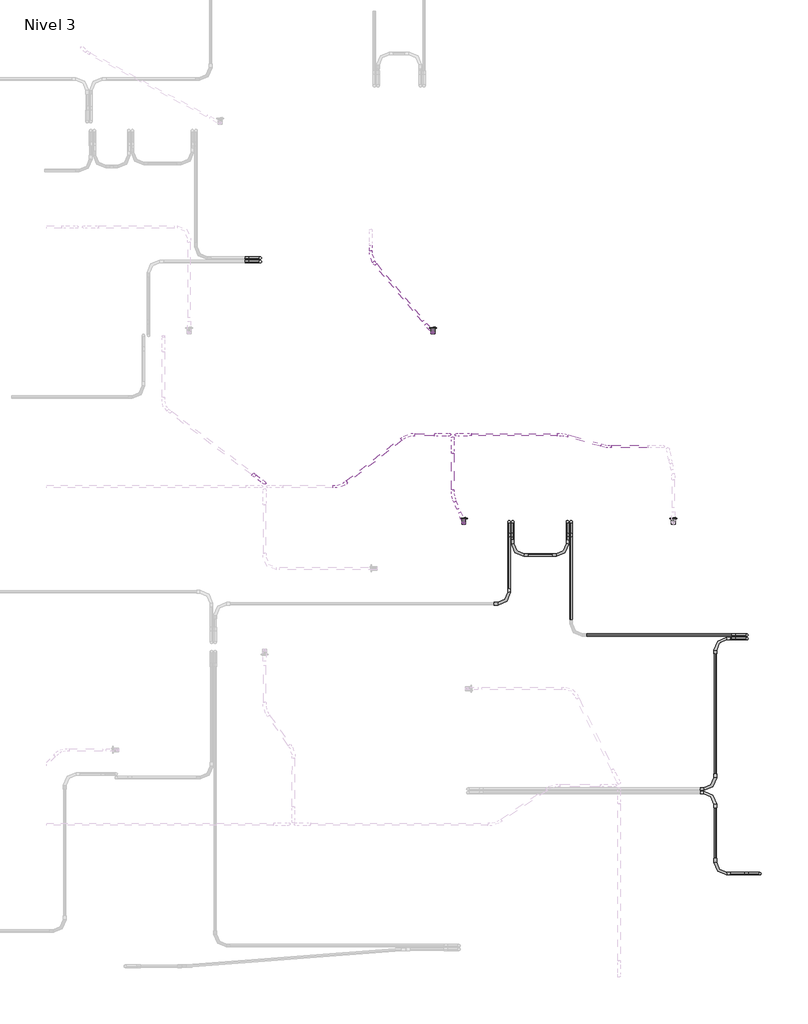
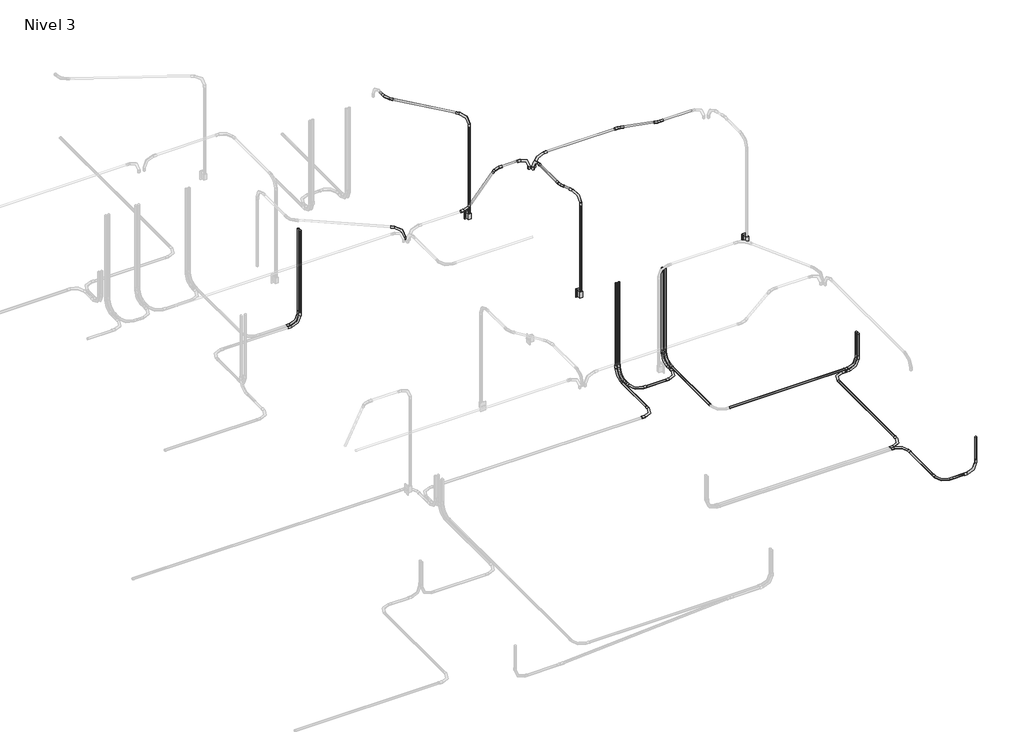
# One storey, part 4 of 9: 30 cable carrier segments, 28 cable carrier fittings, 3 switching devices.
"""IFC4 building model written with IfcOpenShell, lengths in millimetres."""

from ifc_helpers import new_model, si_unit, point, frame, frame_2d, origin, place, context, project, spatial, circle_curve, trimmed, segment, composite_curve, outline, extrude, transform, mapped, element, save
from components import m_codo_de_tubo_extremo_liso_pvc_9da73e12, m_codo_de_tubo_extremo_liso_pvc_102f0f41, m_codo_de_tubo_extremo_liso_pvc_ceb821ea, m_codo_de_tubo_extremo_liso_pvc_a7355fb1, m_codo_de_tubo_extremo_liso_pvc_d450ba0d, m_codo_de_tubo_extremo_liso_pvc_b46efc4b, switching_device_22fed34b

model = new_model("IFC4")

# Units and contexts
model_context = context("Model", 3, world=origin())
ifc_project = project(units=[si_unit("LENGTHUNIT", "METRE", prefix="MILLI")], contexts=[model_context])

# Site, building, storey
site = spatial("IfcSite", under=ifc_project)
building = spatial("IfcBuilding", under=site)
storey = spatial("IfcBuildingStorey", under=building, Name="Nivel 3", Elevation=5450.0)

# Cable carrier fittings
placement = place(None, origin())
m_codo_de_tubo_extremo_liso_pvc_shape = m_codo_de_tubo_extremo_liso_pvc_9da73e12(model_context)
element("IfcCableCarrierFitting", 1, ObjectType="M_Codo de tubo - Extremo liso - PVC : CODO POTENCIA", at=placement, inside=storey, context=model_context, shape_type="MappedRepresentation", body=[
    mapped(m_codo_de_tubo_extremo_liso_pvc_shape, transform((4214.6371118, 7687.1296392, 5380.0), x_axis=(0.0, 0.0, -1.0), y_axis=(-1.0, 0.0, 0.0), z_axis=(0.0, 1.0, 0.0))),
])
element("IfcCableCarrierFitting", 2, ObjectType="M_Codo de tubo - Extremo liso - PVC : CODO POTENCIA", at=placement, inside=storey, context=model_context, shape_type="MappedRepresentation", body=[
    mapped(m_codo_de_tubo_extremo_liso_pvc_shape, transform((4214.6371118, 7723.1932788, 5380.0), x_axis=(0.0, 0.0, -1.0), y_axis=(-1.0, 0.0, 0.0), z_axis=(0.0, 1.0, 0.0))),
])
element("IfcCableCarrierFitting", 3, ObjectType="M_Codo de tubo - Extremo liso - PVC : CODO POTENCIA", at=placement, inside=storey, context=model_context, shape_type="MappedRepresentation", body=[
    mapped(m_codo_de_tubo_extremo_liso_pvc_shape, transform((9244.6371118, 1529.9675815, 5380.0), x_axis=(0.0, 0.0, -1.0), y_axis=(-1.0, 0.0, 0.0), z_axis=(0.0, 1.0, 0.0))),
])
element("IfcCableCarrierFitting", 4, ObjectType="M_Codo de tubo - Extremo liso - PVC : CODO POTENCIA", at=placement, inside=storey, context=model_context, shape_type="MappedRepresentation", body=[
    mapped(m_codo_de_tubo_extremo_liso_pvc_shape, transform((9114.6371118, 3893.7800226, 5380.0), x_axis=(0.0, 0.0, -1.0), y_axis=(-1.0, 0.0, 0.0), z_axis=(0.0, 1.0, 0.0))),
])
element("IfcCableCarrierFitting", 5, ObjectType="M_Codo de tubo - Extremo liso - PVC : CODO POTENCIA", at=placement, inside=storey, context=model_context, shape_type="MappedRepresentation", body=[
    mapped(m_codo_de_tubo_extremo_liso_pvc_shape, transform((8794.6371118, 2344.5282763, 5380.0), x_axis=(0.0, 1.0, 0.0), y_axis=(-1.0, 0.0, 0.0), z_axis=(0.0, 0.0, 1.0))),
])
element("IfcCableCarrierFitting", 6, ObjectType="M_Codo de tubo - Extremo liso - PVC : CODO POTENCIA", at=placement, inside=storey, context=model_context, shape_type="MappedRepresentation", body=[
    mapped(m_codo_de_tubo_extremo_liso_pvc_shape, transform((8794.6371118, 1529.9675815, 5380.0), x_axis=(0.0, -1.0, 0.0), y_axis=(1.0, 0.0, 0.0), z_axis=(0.0, 0.0, 1.0))),
])
element("IfcCableCarrierFitting", 7, ObjectType="M_Codo de tubo - Extremo liso - PVC : CODO POTENCIA", at=placement, inside=storey, context=model_context, shape_type="MappedRepresentation", body=[
    mapped(m_codo_de_tubo_extremo_liso_pvc_shape, transform((8794.6371118, 3893.7800226, 5380.0), x_axis=(-1.0, 0.0, 0.0), y_axis=(0.0, -1.0, 0.0), z_axis=(0.0, 0.0, 1.0))),
])
element("IfcCableCarrierFitting", 8, ObjectType="M_Codo de tubo - Extremo liso - PVC : CODO POTENCIA", at=placement, inside=storey, context=model_context, shape_type="MappedRepresentation", body=[
    mapped(m_codo_de_tubo_extremo_liso_pvc_shape, transform((8794.6371118, 2380.5919159, 5380.0), x_axis=(1.0, 0.0, 0.0), y_axis=(0.0, 1.0, 0.0), z_axis=(0.0, 0.0, 1.0))),
])
element("IfcCableCarrierFitting", 9, ObjectType="M_Codo de tubo - Extremo liso - PVC : CODO POTENCIA", at=placement, inside=storey, context=model_context, shape_type="MappedRepresentation", body=[
    mapped(m_codo_de_tubo_extremo_liso_pvc_shape, transform((7343.1290455, 5070.3628882, 5380.0), x_axis=(0.0, 0.0, -1.0), y_axis=(0.0, -1.0, 0.0), z_axis=(-1.0, 0.0, 0.0))),
])
element("IfcCableCarrierFitting", 10, ObjectType="M_Codo de tubo - Extremo liso - PVC : CODO POTENCIA", at=placement, inside=storey, context=model_context, shape_type="MappedRepresentation", body=[
    mapped(m_codo_de_tubo_extremo_liso_pvc_shape, transform((7307.0654059, 5070.3628882, 5380.0), x_axis=(0.0, 0.0, -1.0), y_axis=(0.0, -1.0, 0.0), z_axis=(-1.0, 0.0, 0.0))),
])
element("IfcCableCarrierFitting", 11, ObjectType="M_Codo de tubo - Extremo liso - PVC : CODO POTENCIA", at=placement, inside=storey, context=model_context, shape_type="MappedRepresentation", body=[
    mapped(m_codo_de_tubo_extremo_liso_pvc_shape, transform((6755.4901534, 5070.3628882, 5380.0), x_axis=(0.0, 0.0, -1.0), y_axis=(0.0, -1.0, 0.0), z_axis=(-1.0, 0.0, 0.0))),
])
element("IfcCableCarrierFitting", 12, ObjectType="M_Codo de tubo - Extremo liso - PVC : CODO POTENCIA", at=placement, inside=storey, context=model_context, shape_type="MappedRepresentation", body=[
    mapped(m_codo_de_tubo_extremo_liso_pvc_shape, transform((6719.4265137, 5070.3628882, 5380.0), x_axis=(0.0, 0.0, -1.0), y_axis=(0.0, -1.0, 0.0), z_axis=(-1.0, 0.0, 0.0))),
])
element("IfcCableCarrierFitting", 13, ObjectType="M_Codo de tubo - Extremo liso - PVC : CODO POTENCIA", at=placement, inside=storey, context=model_context, shape_type="MappedRepresentation", body=[
    mapped(m_codo_de_tubo_extremo_liso_pvc_shape, transform((7307.0654059, 4735.4544528, 5380.0), x_axis=(1.0, 0.0, 0.0), y_axis=(0.0, 1.0, 0.0), z_axis=(0.0, 0.0, 1.0))),
])
element("IfcCableCarrierFitting", 14, ObjectType="M_Codo de tubo - Extremo liso - PVC : CODO POTENCIA", at=placement, inside=storey, context=model_context, shape_type="MappedRepresentation", body=[
    mapped(m_codo_de_tubo_extremo_liso_pvc_shape, transform((6755.4901534, 4735.4544528, 5380.0), x_axis=(0.0, -1.0, 0.0), y_axis=(1.0, 0.0, 0.0), z_axis=(0.0, 0.0, 1.0))),
])
element("IfcCableCarrierFitting", 15, ObjectType="M_Codo de tubo - Extremo liso - PVC : CODO POTENCIA", at=placement, inside=storey, context=model_context, shape_type="MappedRepresentation", body=[
    mapped(m_codo_de_tubo_extremo_liso_pvc_shape, transform((9114.6371118, 3929.8436623, 5380.0), x_axis=(0.0, 0.0, -1.0), y_axis=(-1.0, 0.0, 0.0), z_axis=(0.0, 1.0, 0.0))),
])
element("IfcCableCarrierFitting", 16, ObjectType="M_Codo de tubo - Extremo liso - PVC : CODO POTENCIA", at=placement, inside=storey, context=model_context, shape_type="MappedRepresentation", body=[
    mapped(m_codo_de_tubo_extremo_liso_pvc_shape, transform((6719.4265137, 4245.3628882, 5380.0), x_axis=(1.0, 0.0, 0.0), y_axis=(0.0, 1.0, 0.0), z_axis=(0.0, 0.0, 1.0))),
])
element("IfcCableCarrierFitting", 17, ObjectType="M_Codo de tubo - Extremo liso - PVC : CODO ILUMINACION", at=placement, inside=storey, context=model_context, shape_type="MappedRepresentation", body=[
    mapped(m_codo_de_tubo_extremo_liso_pvc_shape, transform((6187.5450067, 5945.2494875, 8000.0), x_axis=(-1.0, 0.0, 0.0), y_axis=(0.0, 0.0, -1.0), z_axis=(0.0, -1.0, 0.0))),
])
element("IfcCableCarrierFitting", 18, ObjectType="M_Codo de tubo - Extremo liso - PVC : CODO ILUMINACION", at=placement, inside=storey, context=model_context, shape_type="MappedRepresentation", body=[
    mapped(m_codo_de_tubo_extremo_liso_pvc_shape, transform((6151.3238073, 5913.4404259, 8000.0), x_axis=(0.0, 1.0, 0.0), y_axis=(0.0, 0.0, -1.0), z_axis=(-1.0, 0.0, 0.0))),
])
element("IfcCableCarrierFitting", 19, ObjectType="M_Codo de tubo - Extremo liso - PVC : CODO ILUMINACION", at=placement, inside=storey, context=model_context, shape_type="MappedRepresentation", body=[
    mapped(m_codo_de_tubo_extremo_liso_pvc_shape, transform((6262.8378124, 5056.8611243, 8000.0), x_axis=(0.0, 0.0, 1.0), y_axis=(-0.3790250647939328, 0.9253864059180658, 0.0), z_axis=(-0.9253864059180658, -0.3790250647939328, 0.0))),
])
element("IfcCableCarrierFitting", 20, ObjectType="M_Codo de tubo - Extremo liso - PVC : CODO ILUMINACION", at=placement, inside=storey, context=model_context, shape_type="MappedRepresentation", body=[
    mapped(m_codo_de_tubo_extremo_liso_pvc_shape, transform((5952.4011855, 6971.8611243, 8000.0), x_axis=(0.0, 0.0, 1.0), y_axis=(-0.6427876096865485, 0.7660444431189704, 0.0), z_axis=(-0.7660444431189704, -0.6427876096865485, 0.0))),
])
m_codo_de_tubo_extremo_liso_pvc_2_shape = m_codo_de_tubo_extremo_liso_pvc_102f0f41(model_context)
element("IfcCableCarrierFitting", 21, ObjectType="M_Codo de tubo - Extremo liso - PVC : CODO ILUMINACION", at=placement, inside=storey, context=model_context, shape_type="MappedRepresentation", body=[
    mapped(m_codo_de_tubo_extremo_liso_pvc_2_shape, transform((6119.5147457, 5945.2494875, 8000.0), x_axis=(1.0, 0.0, 0.0), y_axis=(0.0, 0.0, 1.0), z_axis=(0.0, -1.0, 0.0))),
])
element("IfcCableCarrierFitting", 22, ObjectType="M_Codo de tubo - Extremo liso - PVC : CODO ILUMINACION", at=placement, inside=storey, context=model_context, shape_type="MappedRepresentation", body=[
    mapped(m_codo_de_tubo_extremo_liso_pvc_2_shape, transform((4258.2410998, 5458.3054211, 8000.0), x_axis=(0.798635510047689, -0.6018150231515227, 0.0), y_axis=(0.0, 0.0, 1.0), z_axis=(-0.6018150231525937, -0.7986355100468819, 0.0))),
])
m_codo_de_tubo_extremo_liso_pvc_3_shape = m_codo_de_tubo_extremo_liso_pvc_ceb821ea(model_context)
element("IfcCableCarrierFitting", 23, ObjectType="M_Codo de tubo - Extremo liso - PVC : CODO ILUMINACION", at=placement, inside=storey, context=model_context, shape_type="MappedRepresentation", body=[
    mapped(m_codo_de_tubo_extremo_liso_pvc_3_shape, transform((7259.9450067, 5945.2494875, 8000.0), x_axis=(-0.9646302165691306, 0.2636068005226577, 0.0), y_axis=(-0.2636068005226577, -0.9646302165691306, 0.0), z_axis=(0.0, 0.0, 1.0))),
])
element("IfcCableCarrierFitting", 24, ObjectType="M_Codo de tubo - Extremo liso - PVC : CODO ILUMINACION", at=placement, inside=storey, context=model_context, shape_type="MappedRepresentation", body=[
    mapped(m_codo_de_tubo_extremo_liso_pvc_3_shape, transform((7696.9235905, 5825.8353075, 8000.0), x_axis=(0.9646302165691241, -0.2636068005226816, 0.0), y_axis=(0.2636068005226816, 0.9646302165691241, 0.0), z_axis=(0.0, 0.0, 1.0))),
])
m_codo_de_tubo_extremo_liso_pvc_4_shape = m_codo_de_tubo_extremo_liso_pvc_a7355fb1(model_context)
element("IfcCableCarrierFitting", 25, ObjectType="M_Codo de tubo - Extremo liso - PVC : CODO ILUMINACION", at=placement, inside=storey, context=model_context, shape_type="MappedRepresentation", body=[
    mapped(m_codo_de_tubo_extremo_liso_pvc_4_shape, transform((5693.9543175, 5945.2494875, 8000.0), x_axis=(-1.0, 0.0, 0.0), y_axis=(0.0, -1.0, 0.0), z_axis=(0.0, 0.0, 1.0))),
])
element("IfcCableCarrierFitting", 26, ObjectType="M_Codo de tubo - Extremo liso - PVC : CODO ILUMINACION", at=placement, inside=storey, context=model_context, shape_type="MappedRepresentation", body=[
    mapped(m_codo_de_tubo_extremo_liso_pvc_4_shape, transform((5025.7404165, 5423.1835713, 8000.0), x_axis=(1.0, 0.0, 0.0), y_axis=(0.0, 1.0, 0.0), z_axis=(0.0, 0.0, 1.0))),
])
m_codo_de_tubo_extremo_liso_pvc_5_shape = m_codo_de_tubo_extremo_liso_pvc_d450ba0d(model_context)
element("IfcCableCarrierFitting", 27, ObjectType="M_Codo de tubo - Extremo liso - PVC : CODO ILUMINACION", at=placement, inside=storey, context=model_context, shape_type="MappedRepresentation", body=[
    mapped(m_codo_de_tubo_extremo_liso_pvc_5_shape, transform((6151.3238073, 5329.1215998, 8000.0), x_axis=(0.0, -1.0, 0.0), y_axis=(1.0, 0.0, 0.0), z_axis=(0.0, 0.0, 1.0))),
])
m_codo_de_tubo_extremo_liso_pvc_6_shape = m_codo_de_tubo_extremo_liso_pvc_b46efc4b(model_context)
element("IfcCableCarrierFitting", 28, ObjectType="M_Codo de tubo - Extremo liso - PVC : CODO ILUMINACION", at=placement, inside=storey, context=model_context, shape_type="MappedRepresentation", body=[
    mapped(m_codo_de_tubo_extremo_liso_pvc_6_shape, transform((5326.8335186, 7717.3836388, 8000.0), x_axis=(0.0, -1.0, 0.0), y_axis=(1.0, 0.0, 0.0), z_axis=(0.0, 0.0, 1.0))),
])

# Cable carrier segments
element("IfcCableCarrierSegment", 29, ObjectType="PVC-SEL, POTENCIA", at=placement, inside=storey, context=model_context, shape_type="SweptSolid", body=[
    extrude(outline(composite_curve([segment(trimmed(circle_curve(frame_2d((4214.6371118, 7723.1932788)), 11.71), [point((4226.3471118, 7723.1932788))], [point((4214.6371118, 7711.4832788))], False, "CARTESIAN"), True, "CONTINUOUS"), segment(trimmed(circle_curve(frame_2d((4214.6371118, 7723.1932788)), 11.71), [point((4214.6371118, 7711.4832788))], [point((4202.9271118, 7723.1932788))], False, "CARTESIAN"), True, "CONTINUOUS"), segment(trimmed(circle_curve(frame_2d((4214.6371118, 7723.1932788)), 11.71), [point((4202.9271118, 7723.1932788))], [point((4214.6371118, 7734.9032788))], False, "CARTESIAN"), True, "CONTINUOUS"), segment(trimmed(circle_curve(frame_2d((4214.6371118, 7723.1932788)), 11.71), [point((4214.6371118, 7734.9032788))], [point((4226.3471118, 7723.1932788))], False, "CARTESIAN"), True, "CONTINUOUS")], self_intersect=False)), frame((0.0, 0.0, 5532.4), z_axis=(0.0, 0.0, 1.0), x_axis=(1.0, 0.0, 0.0)), (0.0, 0.0, 1.0), 1097.3020537),
])
element("IfcCableCarrierSegment", 30, ObjectType="PVC-SEL, POTENCIA", at=placement, inside=storey, context=model_context, shape_type="SweptSolid", body=[
    extrude(outline(composite_curve([segment(trimmed(circle_curve(frame_2d((4214.6371118, 7687.1296392)), 11.71), [point((4226.3471118, 7687.1296392))], [point((4214.6371118, 7675.4196392))], False, "CARTESIAN"), True, "CONTINUOUS"), segment(trimmed(circle_curve(frame_2d((4214.6371118, 7687.1296392)), 11.71), [point((4214.6371118, 7675.4196392))], [point((4202.9271118, 7687.1296392))], False, "CARTESIAN"), True, "CONTINUOUS"), segment(trimmed(circle_curve(frame_2d((4214.6371118, 7687.1296392)), 11.71), [point((4202.9271118, 7687.1296392))], [point((4214.6371118, 7698.8396392))], False, "CARTESIAN"), True, "CONTINUOUS"), segment(trimmed(circle_curve(frame_2d((4214.6371118, 7687.1296392)), 11.71), [point((4214.6371118, 7698.8396392))], [point((4226.3471118, 7687.1296392))], False, "CARTESIAN"), True, "CONTINUOUS")], self_intersect=False)), frame((0.0, 0.0, 5532.4), z_axis=(0.0, 0.0, 1.0), x_axis=(1.0, 0.0, 0.0)), (0.0, 0.0, 1.0), 1097.3020537),
])
element("IfcCableCarrierSegment", 31, ObjectType="PVC-SEL, POTENCIA", at=placement, inside=storey, context=model_context, shape_type="SweptSolid", body=[
    extrude(outline(composite_curve([segment(trimmed(circle_curve(frame_2d((1529.9675815, 5380.0)), 11.71), [point((1541.6775815, 5380.0))], [point((1529.9675815, 5368.29))], False, "CARTESIAN"), True, "CONTINUOUS"), segment(trimmed(circle_curve(frame_2d((1529.9675815, 5380.0)), 11.71), [point((1529.9675815, 5368.29))], [point((1518.2575815, 5380.0))], False, "CARTESIAN"), True, "CONTINUOUS"), segment(trimmed(circle_curve(frame_2d((1529.9675815, 5380.0)), 11.71), [point((1518.2575815, 5380.0))], [point((1529.9675815, 5391.71))], False, "CARTESIAN"), True, "CONTINUOUS"), segment(trimmed(circle_curve(frame_2d((1529.9675815, 5380.0)), 11.71), [point((1529.9675815, 5391.71))], [point((1541.6775815, 5380.0))], False, "CARTESIAN"), True, "CONTINUOUS")], self_intersect=False)), frame((8947.0371118, 0.0, 0.0), z_axis=(1.0, 0.0, 0.0), x_axis=(0.0, 1.0, 0.0)), (0.0, 0.0, 1.0), 145.2),
])
element("IfcCableCarrierSegment", 32, ObjectType="PVC-SEL, POTENCIA", at=placement, inside=storey, context=model_context, shape_type="SweptSolid", body=[
    extrude(outline(composite_curve([segment(trimmed(circle_curve(frame_2d((9244.6371118, 1529.9675815)), 11.71), [point((9256.3471118, 1529.9675815))], [point((9244.6371118, 1518.2575815))], False, "CARTESIAN"), True, "CONTINUOUS"), segment(trimmed(circle_curve(frame_2d((9244.6371118, 1529.9675815)), 11.71), [point((9244.6371118, 1518.2575815))], [point((9232.9271118, 1529.9675815))], False, "CARTESIAN"), True, "CONTINUOUS"), segment(trimmed(circle_curve(frame_2d((9244.6371118, 1529.9675815)), 11.71), [point((9232.9271118, 1529.9675815))], [point((9244.6371118, 1541.6775815))], False, "CARTESIAN"), True, "CONTINUOUS"), segment(trimmed(circle_curve(frame_2d((9244.6371118, 1529.9675815)), 11.71), [point((9244.6371118, 1541.6775815))], [point((9256.3471118, 1529.9675815))], False, "CARTESIAN"), True, "CONTINUOUS")], self_intersect=False)), frame((0.0, 0.0, 5532.4), z_axis=(0.0, 0.0, 1.0), x_axis=(1.0, 0.0, 0.0)), (0.0, 0.0, 1.0), 297.3020537),
])
element("IfcCableCarrierSegment", 33, ObjectType="PVC-SEL, POTENCIA", at=placement, inside=storey, context=model_context, shape_type="SweptSolid", body=[
    extrude(outline(composite_curve([segment(trimmed(circle_curve(frame_2d((3929.8436623, 5380.0)), 11.71), [point((3918.1336623, 5380.0))], [point((3929.8436623, 5391.71))], False, "CARTESIAN"), True, "CONTINUOUS"), segment(trimmed(circle_curve(frame_2d((3929.8436623, 5380.0)), 11.71), [point((3929.8436623, 5391.71))], [point((3941.5536623, 5380.0))], False, "CARTESIAN"), True, "CONTINUOUS"), segment(trimmed(circle_curve(frame_2d((3929.8436623, 5380.0)), 11.71), [point((3941.5536623, 5380.0))], [point((3929.8436623, 5368.29))], False, "CARTESIAN"), True, "CONTINUOUS"), segment(trimmed(circle_curve(frame_2d((3929.8436623, 5380.0)), 11.71), [point((3929.8436623, 5368.29))], [point((3918.1336623, 5380.0))], False, "CARTESIAN"), True, "CONTINUOUS")], self_intersect=False)), frame((7495.5290455, 0.0, 0.0), z_axis=(1.0, 0.0, 0.0), x_axis=(0.0, 1.0, 0.0)), (0.0, 0.0, 1.0), 1466.7080662),
])
element("IfcCableCarrierSegment", 34, ObjectType="PVC-SEL, POTENCIA", at=placement, inside=storey, context=model_context, shape_type="SweptSolid", body=[
    extrude(outline(composite_curve([segment(trimmed(circle_curve(frame_2d((9114.6371118, 3929.8436623)), 11.71), [point((9126.3471118, 3929.8436623))], [point((9114.6371118, 3918.1336623))], False, "CARTESIAN"), True, "CONTINUOUS"), segment(trimmed(circle_curve(frame_2d((9114.6371118, 3929.8436623)), 11.71), [point((9114.6371118, 3918.1336623))], [point((9102.9271118, 3929.8436623))], False, "CARTESIAN"), True, "CONTINUOUS"), segment(trimmed(circle_curve(frame_2d((9114.6371118, 3929.8436623)), 11.71), [point((9102.9271118, 3929.8436623))], [point((9114.6371118, 3941.5536623))], False, "CARTESIAN"), True, "CONTINUOUS"), segment(trimmed(circle_curve(frame_2d((9114.6371118, 3929.8436623)), 11.71), [point((9114.6371118, 3941.5536623))], [point((9126.3471118, 3929.8436623))], False, "CARTESIAN"), True, "CONTINUOUS")], self_intersect=False)), frame((0.0, 0.0, 5532.4), z_axis=(0.0, 0.0, 1.0), x_axis=(1.0, 0.0, 0.0)), (0.0, 0.0, 1.0), 297.3020537),
])
element("IfcCableCarrierSegment", 35, ObjectType="PVC-SEL, POTENCIA", at=placement, inside=storey, context=model_context, shape_type="SweptSolid", body=[
    extrude(outline(composite_curve([segment(trimmed(circle_curve(frame_2d((3893.7800226, 5380.0)), 11.71), [point((3905.4900226, 5380.0))], [point((3893.7800226, 5368.29))], False, "CARTESIAN"), True, "CONTINUOUS"), segment(trimmed(circle_curve(frame_2d((3893.7800226, 5380.0)), 11.71), [point((3893.7800226, 5368.29))], [point((3882.0700226, 5380.0))], False, "CARTESIAN"), True, "CONTINUOUS"), segment(trimmed(circle_curve(frame_2d((3893.7800226, 5380.0)), 11.71), [point((3882.0700226, 5380.0))], [point((3893.7800226, 5391.71))], False, "CARTESIAN"), True, "CONTINUOUS"), segment(trimmed(circle_curve(frame_2d((3893.7800226, 5380.0)), 11.71), [point((3893.7800226, 5391.71))], [point((3905.4900226, 5380.0))], False, "CARTESIAN"), True, "CONTINUOUS")], self_intersect=False)), frame((8947.0371118, 0.0, 0.0), z_axis=(1.0, 0.0, 0.0), x_axis=(0.0, 1.0, 0.0)), (0.0, 0.0, 1.0), 15.2),
])
element("IfcCableCarrierSegment", 36, ObjectType="PVC-SEL, POTENCIA", at=placement, inside=storey, context=model_context, shape_type="SweptSolid", body=[
    extrude(outline(composite_curve([segment(trimmed(circle_curve(frame_2d((9114.6371118, 3893.7800226)), 11.71), [point((9126.3471118, 3893.7800226))], [point((9114.6371118, 3882.0700226))], False, "CARTESIAN"), True, "CONTINUOUS"), segment(trimmed(circle_curve(frame_2d((9114.6371118, 3893.7800226)), 11.71), [point((9114.6371118, 3882.0700226))], [point((9102.9271118, 3893.7800226))], False, "CARTESIAN"), True, "CONTINUOUS"), segment(trimmed(circle_curve(frame_2d((9114.6371118, 3893.7800226)), 11.71), [point((9102.9271118, 3893.7800226))], [point((9114.6371118, 3905.4900226))], False, "CARTESIAN"), True, "CONTINUOUS"), segment(trimmed(circle_curve(frame_2d((9114.6371118, 3893.7800226)), 11.71), [point((9114.6371118, 3905.4900226))], [point((9126.3471118, 3893.7800226))], False, "CARTESIAN"), True, "CONTINUOUS")], self_intersect=False)), frame((0.0, 0.0, 5532.4), z_axis=(0.0, 0.0, 1.0), x_axis=(1.0, 0.0, 0.0)), (0.0, 0.0, 1.0), 297.3020537),
])
element("IfcCableCarrierSegment", 37, ObjectType="PVC-SEL, POTENCIA", at=placement, inside=storey, context=model_context, shape_type="SweptSolid", body=[
    extrude(outline(composite_curve([segment(trimmed(circle_curve(frame_2d((5380.0, 8794.6371118)), 11.71), [point((5380.0, 8782.9271118))], [point((5368.29, 8794.6371118))], False, "CARTESIAN"), True, "CONTINUOUS"), segment(trimmed(circle_curve(frame_2d((5380.0, 8794.6371118)), 11.71), [point((5368.29, 8794.6371118))], [point((5380.0, 8806.3471118))], False, "CARTESIAN"), True, "CONTINUOUS"), segment(trimmed(circle_curve(frame_2d((5380.0, 8794.6371118)), 11.71), [point((5380.0, 8806.3471118))], [point((5391.71, 8794.6371118))], False, "CARTESIAN"), True, "CONTINUOUS"), segment(trimmed(circle_curve(frame_2d((5380.0, 8794.6371118)), 11.71), [point((5391.71, 8794.6371118))], [point((5380.0, 8782.9271118))], False, "CARTESIAN"), True, "CONTINUOUS")], self_intersect=False)), frame((0.0, 1682.3675815, 0.0), z_axis=(0.0, 1.0, 0.0), x_axis=(0.0, 0.0, 1.0)), (0.0, 0.0, 1.0), 509.7606948),
])
element("IfcCableCarrierSegment", 38, ObjectType="PVC-SEL, POTENCIA", at=placement, inside=storey, context=model_context, shape_type="SweptSolid", body=[
    extrude(outline(composite_curve([segment(trimmed(circle_curve(frame_2d((5380.0, 8794.6371118)), 11.71), [point((5380.0, 8782.9271118))], [point((5368.29, 8794.6371118))], False, "CARTESIAN"), True, "CONTINUOUS"), segment(trimmed(circle_curve(frame_2d((5380.0, 8794.6371118)), 11.71), [point((5368.29, 8794.6371118))], [point((5380.0, 8806.3471118))], False, "CARTESIAN"), True, "CONTINUOUS"), segment(trimmed(circle_curve(frame_2d((5380.0, 8794.6371118)), 11.71), [point((5380.0, 8806.3471118))], [point((5391.71, 8794.6371118))], False, "CARTESIAN"), True, "CONTINUOUS"), segment(trimmed(circle_curve(frame_2d((5380.0, 8794.6371118)), 11.71), [point((5391.71, 8794.6371118))], [point((5380.0, 8782.9271118))], False, "CARTESIAN"), True, "CONTINUOUS")], self_intersect=False)), frame((0.0, 2532.9919159, 0.0), z_axis=(0.0, 1.0, 0.0), x_axis=(0.0, 0.0, 1.0)), (0.0, 0.0, 1.0), 1208.3881067),
])
element("IfcCableCarrierSegment", 39, ObjectType="PVC-SEL, POTENCIA", at=placement, inside=storey, context=model_context, shape_type="SweptSolid", body=[
    extrude(outline(composite_curve([segment(trimmed(circle_curve(frame_2d((5380.0, 7343.1290455)), 11.71), [point((5380.0, 7331.4190455))], [point((5368.29, 7343.1290455))], False, "CARTESIAN"), True, "CONTINUOUS"), segment(trimmed(circle_curve(frame_2d((5380.0, 7343.1290455)), 11.71), [point((5368.29, 7343.1290455))], [point((5380.0, 7354.8390455))], False, "CARTESIAN"), True, "CONTINUOUS"), segment(trimmed(circle_curve(frame_2d((5380.0, 7343.1290455)), 11.71), [point((5380.0, 7354.8390455))], [point((5391.71, 7343.1290455))], False, "CARTESIAN"), True, "CONTINUOUS"), segment(trimmed(circle_curve(frame_2d((5380.0, 7343.1290455)), 11.71), [point((5391.71, 7343.1290455))], [point((5380.0, 7331.4190455))], False, "CARTESIAN"), True, "CONTINUOUS")], self_intersect=False)), frame((0.0, 4082.2436623, 0.0), z_axis=(0.0, 1.0, 0.0), x_axis=(0.0, 0.0, 1.0)), (0.0, 0.0, 1.0), 835.7192259),
])
element("IfcCableCarrierSegment", 40, ObjectType="PVC-SEL, POTENCIA", at=placement, inside=storey, context=model_context, shape_type="SweptSolid", body=[
    extrude(outline(composite_curve([segment(trimmed(circle_curve(frame_2d((7343.1290455, 5070.3628882)), 11.71), [point((7354.8390455, 5070.3628882))], [point((7343.1290455, 5058.6528882))], False, "CARTESIAN"), True, "CONTINUOUS"), segment(trimmed(circle_curve(frame_2d((7343.1290455, 5070.3628882)), 11.71), [point((7343.1290455, 5058.6528882))], [point((7331.4190455, 5070.3628882))], False, "CARTESIAN"), True, "CONTINUOUS"), segment(trimmed(circle_curve(frame_2d((7343.1290455, 5070.3628882)), 11.71), [point((7331.4190455, 5070.3628882))], [point((7343.1290455, 5082.0728882))], False, "CARTESIAN"), True, "CONTINUOUS"), segment(trimmed(circle_curve(frame_2d((7343.1290455, 5070.3628882)), 11.71), [point((7343.1290455, 5082.0728882))], [point((7354.8390455, 5070.3628882))], False, "CARTESIAN"), True, "CONTINUOUS")], self_intersect=False)), frame((0.0, 0.0, 5532.4), z_axis=(0.0, 0.0, 1.0), x_axis=(1.0, 0.0, 0.0)), (0.0, 0.0, 1.0), 1097.3020537),
])
element("IfcCableCarrierSegment", 41, ObjectType="PVC-SEL, POTENCIA", at=placement, inside=storey, context=model_context, shape_type="SweptSolid", body=[
    extrude(outline(composite_curve([segment(trimmed(circle_curve(frame_2d((5380.0, 7307.0654059)), 11.71), [point((5380.0, 7295.3554059))], [point((5368.29, 7307.0654059))], False, "CARTESIAN"), True, "CONTINUOUS"), segment(trimmed(circle_curve(frame_2d((5380.0, 7307.0654059)), 11.71), [point((5368.29, 7307.0654059))], [point((5380.0, 7318.7754059))], False, "CARTESIAN"), True, "CONTINUOUS"), segment(trimmed(circle_curve(frame_2d((5380.0, 7307.0654059)), 11.71), [point((5380.0, 7318.7754059))], [point((5391.71, 7307.0654059))], False, "CARTESIAN"), True, "CONTINUOUS"), segment(trimmed(circle_curve(frame_2d((5380.0, 7307.0654059)), 11.71), [point((5391.71, 7307.0654059))], [point((5380.0, 7295.3554059))], False, "CARTESIAN"), True, "CONTINUOUS")], self_intersect=False)), frame((0.0, 4887.8544528, 0.0), z_axis=(0.0, 1.0, 0.0), x_axis=(0.0, 0.0, 1.0)), (0.0, 0.0, 1.0), 30.1084355),
])
element("IfcCableCarrierSegment", 42, ObjectType="PVC-SEL, POTENCIA", at=placement, inside=storey, context=model_context, shape_type="SweptSolid", body=[
    extrude(outline(composite_curve([segment(trimmed(circle_curve(frame_2d((7307.0654059, 5070.3628882)), 11.71), [point((7318.7754059, 5070.3628882))], [point((7307.0654059, 5058.6528882))], False, "CARTESIAN"), True, "CONTINUOUS"), segment(trimmed(circle_curve(frame_2d((7307.0654059, 5070.3628882)), 11.71), [point((7307.0654059, 5058.6528882))], [point((7295.3554059, 5070.3628882))], False, "CARTESIAN"), True, "CONTINUOUS"), segment(trimmed(circle_curve(frame_2d((7307.0654059, 5070.3628882)), 11.71), [point((7295.3554059, 5070.3628882))], [point((7307.0654059, 5082.0728882))], False, "CARTESIAN"), True, "CONTINUOUS"), segment(trimmed(circle_curve(frame_2d((7307.0654059, 5070.3628882)), 11.71), [point((7307.0654059, 5082.0728882))], [point((7318.7754059, 5070.3628882))], False, "CARTESIAN"), True, "CONTINUOUS")], self_intersect=False)), frame((0.0, 0.0, 5532.4), z_axis=(0.0, 0.0, 1.0), x_axis=(1.0, 0.0, 0.0)), (0.0, 0.0, 1.0), 1097.3020537),
])
element("IfcCableCarrierSegment", 43, ObjectType="PVC-SEL, POTENCIA", at=placement, inside=storey, context=model_context, shape_type="SweptSolid", body=[
    extrude(outline(composite_curve([segment(trimmed(circle_curve(frame_2d((5380.0, 6755.4901534)), 11.71), [point((5380.0, 6743.7801534))], [point((5368.29, 6755.4901534))], False, "CARTESIAN"), True, "CONTINUOUS"), segment(trimmed(circle_curve(frame_2d((5380.0, 6755.4901534)), 11.71), [point((5368.29, 6755.4901534))], [point((5380.0, 6767.2001534))], False, "CARTESIAN"), True, "CONTINUOUS"), segment(trimmed(circle_curve(frame_2d((5380.0, 6755.4901534)), 11.71), [point((5380.0, 6767.2001534))], [point((5391.71, 6755.4901534))], False, "CARTESIAN"), True, "CONTINUOUS"), segment(trimmed(circle_curve(frame_2d((5380.0, 6755.4901534)), 11.71), [point((5391.71, 6755.4901534))], [point((5380.0, 6743.7801534))], False, "CARTESIAN"), True, "CONTINUOUS")], self_intersect=False)), frame((0.0, 4887.8544528, 0.0), z_axis=(0.0, 1.0, 0.0), x_axis=(0.0, 0.0, 1.0)), (0.0, 0.0, 1.0), 30.1084355),
])
element("IfcCableCarrierSegment", 44, ObjectType="PVC-SEL, POTENCIA", at=placement, inside=storey, context=model_context, shape_type="SweptSolid", body=[
    extrude(outline(composite_curve([segment(trimmed(circle_curve(frame_2d((6755.4901534, 5070.3628882)), 11.71), [point((6767.2001534, 5070.3628882))], [point((6755.4901534, 5058.6528882))], False, "CARTESIAN"), True, "CONTINUOUS"), segment(trimmed(circle_curve(frame_2d((6755.4901534, 5070.3628882)), 11.71), [point((6755.4901534, 5058.6528882))], [point((6743.7801534, 5070.3628882))], False, "CARTESIAN"), True, "CONTINUOUS"), segment(trimmed(circle_curve(frame_2d((6755.4901534, 5070.3628882)), 11.71), [point((6743.7801534, 5070.3628882))], [point((6755.4901534, 5082.0728882))], False, "CARTESIAN"), True, "CONTINUOUS"), segment(trimmed(circle_curve(frame_2d((6755.4901534, 5070.3628882)), 11.71), [point((6755.4901534, 5082.0728882))], [point((6767.2001534, 5070.3628882))], False, "CARTESIAN"), True, "CONTINUOUS")], self_intersect=False)), frame((0.0, 0.0, 5532.4), z_axis=(0.0, 0.0, 1.0), x_axis=(1.0, 0.0, 0.0)), (0.0, 0.0, 1.0), 1097.3020537),
])
element("IfcCableCarrierSegment", 45, ObjectType="PVC-SEL, POTENCIA", at=placement, inside=storey, context=model_context, shape_type="SweptSolid", body=[
    extrude(outline(composite_curve([segment(trimmed(circle_curve(frame_2d((5380.0, 6719.4265137)), 11.71), [point((5380.0, 6707.7165137))], [point((5368.29, 6719.4265137))], False, "CARTESIAN"), True, "CONTINUOUS"), segment(trimmed(circle_curve(frame_2d((5380.0, 6719.4265137)), 11.71), [point((5368.29, 6719.4265137))], [point((5380.0, 6731.1365137))], False, "CARTESIAN"), True, "CONTINUOUS"), segment(trimmed(circle_curve(frame_2d((5380.0, 6719.4265137)), 11.71), [point((5380.0, 6731.1365137))], [point((5391.71, 6719.4265137))], False, "CARTESIAN"), True, "CONTINUOUS"), segment(trimmed(circle_curve(frame_2d((5380.0, 6719.4265137)), 11.71), [point((5391.71, 6719.4265137))], [point((5380.0, 6707.7165137))], False, "CARTESIAN"), True, "CONTINUOUS")], self_intersect=False)), frame((0.0, 4397.7628882, 0.0), z_axis=(0.0, 1.0, 0.0), x_axis=(0.0, 0.0, 1.0)), (0.0, 0.0, 1.0), 520.2),
])
element("IfcCableCarrierSegment", 46, ObjectType="PVC-SEL, POTENCIA", at=placement, inside=storey, context=model_context, shape_type="SweptSolid", body=[
    extrude(outline(composite_curve([segment(trimmed(circle_curve(frame_2d((6719.4265137, 5070.3628882)), 11.71), [point((6731.1365137, 5070.3628882))], [point((6719.4265137, 5058.6528882))], False, "CARTESIAN"), True, "CONTINUOUS"), segment(trimmed(circle_curve(frame_2d((6719.4265137, 5070.3628882)), 11.71), [point((6719.4265137, 5058.6528882))], [point((6707.7165137, 5070.3628882))], False, "CARTESIAN"), True, "CONTINUOUS"), segment(trimmed(circle_curve(frame_2d((6719.4265137, 5070.3628882)), 11.71), [point((6707.7165137, 5070.3628882))], [point((6719.4265137, 5082.0728882))], False, "CARTESIAN"), True, "CONTINUOUS"), segment(trimmed(circle_curve(frame_2d((6719.4265137, 5070.3628882)), 11.71), [point((6719.4265137, 5082.0728882))], [point((6731.1365137, 5070.3628882))], False, "CARTESIAN"), True, "CONTINUOUS")], self_intersect=False)), frame((0.0, 0.0, 5532.4), z_axis=(0.0, 0.0, 1.0), x_axis=(1.0, 0.0, 0.0)), (0.0, 0.0, 1.0), 1097.3020537),
])
element("IfcCableCarrierSegment", 47, ObjectType="PVC-SEL, POTENCIA", at=placement, inside=storey, context=model_context, shape_type="SweptSolid", body=[
    extrude(outline(composite_curve([segment(trimmed(circle_curve(frame_2d((4735.4544528, 5380.0)), 11.71), [point((4747.1644528, 5380.0))], [point((4735.4544528, 5368.29))], False, "CARTESIAN"), True, "CONTINUOUS"), segment(trimmed(circle_curve(frame_2d((4735.4544528, 5380.0)), 11.71), [point((4735.4544528, 5368.29))], [point((4723.7444528, 5380.0))], False, "CARTESIAN"), True, "CONTINUOUS"), segment(trimmed(circle_curve(frame_2d((4735.4544528, 5380.0)), 11.71), [point((4723.7444528, 5380.0))], [point((4735.4544528, 5391.71))], False, "CARTESIAN"), True, "CONTINUOUS"), segment(trimmed(circle_curve(frame_2d((4735.4544528, 5380.0)), 11.71), [point((4735.4544528, 5391.71))], [point((4747.1644528, 5380.0))], False, "CARTESIAN"), True, "CONTINUOUS")], self_intersect=False)), frame((6907.8901534, 0.0, 0.0), z_axis=(1.0, 0.0, 0.0), x_axis=(0.0, 1.0, 0.0)), (0.0, 0.0, 1.0), 246.7752525),
])
element("IfcCableCarrierSegment", 48, ObjectType="PVC-SEL ILUMINACION", at=placement, inside=storey, context=model_context, shape_type="SweptSolid", body=[
    extrude(outline(composite_curve([segment(trimmed(circle_curve(frame_2d((5945.2494875, 8000.0)), 11.71), [point((5933.5394875, 8000.0))], [point((5945.2494875, 8011.71))], False, "CARTESIAN"), True, "CONTINUOUS"), segment(trimmed(circle_curve(frame_2d((5945.2494875, 8000.0)), 11.71), [point((5945.2494875, 8011.71))], [point((5956.9594875, 8000.0))], False, "CARTESIAN"), True, "CONTINUOUS"), segment(trimmed(circle_curve(frame_2d((5945.2494875, 8000.0)), 11.71), [point((5956.9594875, 8000.0))], [point((5945.2494875, 7988.29))], False, "CARTESIAN"), True, "CONTINUOUS"), segment(trimmed(circle_curve(frame_2d((5945.2494875, 8000.0)), 11.71), [point((5945.2494875, 7988.29))], [point((5933.5394875, 8000.0))], False, "CARTESIAN"), True, "CONTINUOUS")], self_intersect=False)), frame((6339.9450067, 0.0, 0.0), z_axis=(1.0, 0.0, 0.0), x_axis=(0.0, 1.0, 0.0)), (0.0, 0.0, 1.0), 866.5636497),
])
element("IfcCableCarrierSegment", 49, ObjectType="PVC-SEL ILUMINACION", at=placement, inside=storey, context=model_context, shape_type="SweptSolid", body=[
    extrude(outline(composite_curve([segment(trimmed(circle_curve(frame_2d((5825.8353075, 8000.0)), 11.71), [point((5837.5453075, 8000.0))], [point((5825.8353075, 7988.29))], False, "CARTESIAN"), True, "CONTINUOUS"), segment(trimmed(circle_curve(frame_2d((5825.8353075, 8000.0)), 11.71), [point((5825.8353075, 7988.29))], [point((5814.1253075, 8000.0))], False, "CARTESIAN"), True, "CONTINUOUS"), segment(trimmed(circle_curve(frame_2d((5825.8353075, 8000.0)), 11.71), [point((5814.1253075, 8000.0))], [point((5825.8353075, 8011.71))], False, "CARTESIAN"), True, "CONTINUOUS"), segment(trimmed(circle_curve(frame_2d((5825.8353075, 8000.0)), 11.71), [point((5825.8353075, 8011.71))], [point((5837.5453075, 8000.0))], False, "CARTESIAN"), True, "CONTINUOUS")], self_intersect=False)), frame((7750.3599408, 0.0, 0.0), z_axis=(1.0, 0.0, 0.0), x_axis=(0.0, 1.0, 0.0)), (0.0, 0.0, 1.0), 366.5636497),
])
element("IfcCableCarrierSegment", 50, ObjectType="PVC-SEL ILUMINACION", at=placement, inside=storey, context=model_context, shape_type="SweptSolid", body=[
    extrude(outline(composite_curve([segment(trimmed(circle_curve(frame_2d((0.0, -11.71)), 11.71), [point((-11.71, -11.71))], [point((0.0, 0.0))], False, "CARTESIAN"), True, "CONTINUOUS"), segment(trimmed(circle_curve(frame_2d((0.0, -11.71)), 11.71), [point((0.0, 0.0))], [point((11.7100001, -11.71))], False, "CARTESIAN"), True, "CONTINUOUS"), segment(trimmed(circle_curve(frame_2d((0.0, -11.71)), 11.71), [point((11.7100001, -11.71))], [point((0.0, -23.42))], False, "CARTESIAN"), True, "CONTINUOUS"), segment(trimmed(circle_curve(frame_2d((0.0, -11.71)), 11.71), [point((0.0, -23.42))], [point((-11.71, -11.71))], False, "CARTESIAN"), True, "CONTINUOUS")], self_intersect=False)), frame((7645.3772723, 5839.9214928, 7988.29), z_axis=(-0.9646302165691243, 0.26360680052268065, 0.0), x_axis=(0.26360680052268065, 0.9646302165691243, 0.0)), (0.0, 0.0, 1.0), 346.1284352),
])
element("IfcCableCarrierSegment", 51, ObjectType="PVC-SEL ILUMINACION", at=placement, inside=storey, context=model_context, shape_type="SweptSolid", body=[
    extrude(outline(composite_curve([segment(trimmed(circle_curve(frame_2d((0.0, -11.71)), 11.71), [point((-11.7100001, -11.71))], [point((0.0, 0.0))], False, "CARTESIAN"), True, "CONTINUOUS"), segment(trimmed(circle_curve(frame_2d((0.0, -11.71)), 11.71), [point((0.0, 0.0))], [point((11.71, -11.71))], False, "CARTESIAN"), True, "CONTINUOUS"), segment(trimmed(circle_curve(frame_2d((0.0, -11.71)), 11.71), [point((11.71, -11.71))], [point((0.0, -23.42))], False, "CARTESIAN"), True, "CONTINUOUS"), segment(trimmed(circle_curve(frame_2d((0.0, -11.71)), 11.71), [point((0.0, -23.42))], [point((-11.7100001, -11.71))], False, "CARTESIAN"), True, "CONTINUOUS")], self_intersect=False)), frame((5086.7770866, 5470.8706443, 7988.29), z_axis=(0.7880107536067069, 0.6156614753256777, 0.0), x_axis=(0.6156614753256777, -0.7880107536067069, 0.0)), (0.0, 0.0, 1.0), 693.0623195),
])
element("IfcCableCarrierSegment", 52, ObjectType="PVC-SEL ILUMINACION", at=placement, inside=storey, context=model_context, shape_type="SweptSolid", body=[
    extrude(outline(composite_curve([segment(trimmed(circle_curve(frame_2d((5945.2494875, 8000.0)), 11.71), [point((5956.9594875, 8000.0))], [point((5945.2494875, 7988.29))], False, "CARTESIAN"), True, "CONTINUOUS"), segment(trimmed(circle_curve(frame_2d((5945.2494875, 8000.0)), 11.71), [point((5945.2494875, 7988.29))], [point((5933.5394875, 8000.0))], False, "CARTESIAN"), True, "CONTINUOUS"), segment(trimmed(circle_curve(frame_2d((5945.2494875, 8000.0)), 11.71), [point((5933.5394875, 8000.0))], [point((5945.2494875, 8011.71))], False, "CARTESIAN"), True, "CONTINUOUS"), segment(trimmed(circle_curve(frame_2d((5945.2494875, 8000.0)), 11.71), [point((5945.2494875, 8011.71))], [point((5956.9594875, 8000.0))], False, "CARTESIAN"), True, "CONTINUOUS")], self_intersect=False)), frame((5771.4109637, 0.0, 0.0), z_axis=(1.0, 0.0, 0.0), x_axis=(0.0, 1.0, 0.0)), (0.0, 0.0, 1.0), 195.703782),
])
element("IfcCableCarrierSegment", 53, ObjectType="PVC-SEL ILUMINACION", at=placement, inside=storey, context=model_context, shape_type="SweptSolid", body=[
    extrude(outline(composite_curve([segment(trimmed(circle_curve(frame_2d((0.0, 11.71)), 11.71), [point((11.71, 11.71))], [point((0.0, 0.0))], False, "CARTESIAN"), True, "CONTINUOUS"), segment(trimmed(circle_curve(frame_2d((0.0, 11.71)), 11.71), [point((0.0, 0.0))], [point((-11.71, 11.71))], False, "CARTESIAN"), True, "CONTINUOUS"), segment(trimmed(circle_curve(frame_2d((0.0, 11.71)), 11.71), [point((-11.71, 11.71))], [point((0.0, 23.42))], False, "CARTESIAN"), True, "CONTINUOUS"), segment(trimmed(circle_curve(frame_2d((0.0, 11.71)), 11.71), [point((0.0, 23.42))], [point((11.71, 11.71))], False, "CARTESIAN"), True, "CONTINUOUS")], self_intersect=False)), frame((6205.0743925, 5197.8900126, 8011.71), z_axis=(-0.3790250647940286, 0.9253864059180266, 0.0), x_axis=(0.9253864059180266, 0.3790250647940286, 0.0)), (0.0, 0.0, 1.0), 81.2120339),
])
element("IfcCableCarrierSegment", 54, ObjectType="PVC-SEL ILUMINACION", at=placement, inside=storey, context=model_context, shape_type="SweptSolid", body=[
    extrude(outline(composite_curve([segment(trimmed(circle_curve(frame_2d((6262.8378124, 5056.8611243)), 11.71), [point((6251.1278124, 5056.8611243))], [point((6262.8378124, 5068.5711243))], False, "CARTESIAN"), True, "CONTINUOUS"), segment(trimmed(circle_curve(frame_2d((6262.8378124, 5056.8611243)), 11.71), [point((6262.8378124, 5068.5711243))], [point((6274.5478124, 5056.8611243))], False, "CARTESIAN"), True, "CONTINUOUS"), segment(trimmed(circle_curve(frame_2d((6262.8378124, 5056.8611243)), 11.71), [point((6274.5478124, 5056.8611243))], [point((6262.8378124, 5045.1511243))], False, "CARTESIAN"), True, "CONTINUOUS"), segment(trimmed(circle_curve(frame_2d((6262.8378124, 5056.8611243)), 11.71), [point((6262.8378124, 5045.1511243))], [point((6251.1278124, 5056.8611243))], False, "CARTESIAN"), True, "CONTINUOUS")], self_intersect=False)), frame((0.0, 0.0, 6690.2227463), z_axis=(0.0, 0.0, 1.0), x_axis=(1.0, 0.0, 0.0)), (0.0, 0.0, 1.0), 1157.3772537),
])
element("IfcCableCarrierSegment", 55, ObjectType="PVC-SEL ILUMINACION", at=placement, inside=storey, context=model_context, shape_type="SweptSolid", body=[
    extrude(outline(composite_curve([segment(trimmed(circle_curve(frame_2d((8000.0, 6151.3238073)), 11.71), [point((8000.0, 6139.6138073))], [point((7988.29, 6151.3238073))], False, "CARTESIAN"), True, "CONTINUOUS"), segment(trimmed(circle_curve(frame_2d((8000.0, 6151.3238073)), 11.71), [point((7988.29, 6151.3238073))], [point((8000.0, 6163.0338073))], False, "CARTESIAN"), True, "CONTINUOUS"), segment(trimmed(circle_curve(frame_2d((8000.0, 6151.3238073)), 11.71), [point((8000.0, 6163.0338073))], [point((8011.71, 6151.3238073))], False, "CARTESIAN"), True, "CONTINUOUS"), segment(trimmed(circle_curve(frame_2d((8000.0, 6151.3238073)), 11.71), [point((8011.71, 6151.3238073))], [point((8000.0, 6139.6138073))], False, "CARTESIAN"), True, "CONTINUOUS")], self_intersect=False)), frame((0.0, 5389.7223118, 0.0), z_axis=(0.0, 1.0, 0.0), x_axis=(0.0, 0.0, 1.0)), (0.0, 0.0, 1.0), 371.3181141),
])
element("IfcCableCarrierSegment", 56, ObjectType="PVC-SEL ILUMINACION", at=placement, inside=storey, context=model_context, shape_type="SweptSolid", body=[
    extrude(outline(composite_curve([segment(trimmed(circle_curve(frame_2d((0.0, -11.71)), 11.71), [point((-11.71, -11.71))], [point((0.0, 0.0))], False, "CARTESIAN"), True, "CONTINUOUS"), segment(trimmed(circle_curve(frame_2d((0.0, -11.71)), 11.71), [point((0.0, 0.0))], [point((11.71, -11.71))], False, "CARTESIAN"), True, "CONTINUOUS"), segment(trimmed(circle_curve(frame_2d((0.0, -11.71)), 11.71), [point((11.71, -11.71))], [point((0.0, -23.42))], False, "CARTESIAN"), True, "CONTINUOUS"), segment(trimmed(circle_curve(frame_2d((0.0, -11.71)), 11.71), [point((0.0, -23.42))], [point((-11.71, -11.71))], False, "CARTESIAN"), True, "CONTINUOUS")], self_intersect=False)), frame((5854.4403538, 7088.6062975, 7988.29), z_axis=(-0.6427876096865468, 0.7660444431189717, 0.0), x_axis=(0.7660444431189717, 0.6427876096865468, 0.0)), (0.0, 0.0, 1.0), 741.1087269),
])
element("IfcCableCarrierSegment", 57, ObjectType="PVC-SEL ILUMINACION", at=placement, inside=storey, context=model_context, shape_type="SweptSolid", body=[
    extrude(outline(composite_curve([segment(trimmed(circle_curve(frame_2d((5952.4011855, 6971.8611243)), 11.71), [point((5940.6911855, 6971.8611243))], [point((5952.4011855, 6983.5711243))], False, "CARTESIAN"), True, "CONTINUOUS"), segment(trimmed(circle_curve(frame_2d((5952.4011855, 6971.8611243)), 11.71), [point((5952.4011855, 6983.5711243))], [point((5964.1111855, 6971.8611243))], False, "CARTESIAN"), True, "CONTINUOUS"), segment(trimmed(circle_curve(frame_2d((5952.4011855, 6971.8611243)), 11.71), [point((5964.1111855, 6971.8611243))], [point((5952.4011855, 6960.1511243))], False, "CARTESIAN"), True, "CONTINUOUS"), segment(trimmed(circle_curve(frame_2d((5952.4011855, 6971.8611243)), 11.71), [point((5952.4011855, 6960.1511243))], [point((5940.6911855, 6971.8611243))], False, "CARTESIAN"), True, "CONTINUOUS")], self_intersect=False)), frame((0.0, 0.0, 6690.2227463), z_axis=(0.0, 0.0, 1.0), x_axis=(1.0, 0.0, 0.0)), (0.0, 0.0, 1.0), 1157.3772537),
])
element("IfcCableCarrierSegment", 58, ObjectType="PVC-SEL ILUMINACION", at=placement, inside=storey, context=model_context, shape_type="SweptSolid", body=[
    extrude(outline(composite_curve([segment(trimmed(circle_curve(frame_2d((8000.0, 5326.8335186)), 11.71), [point((8000.0, 5315.1235186))], [point((7988.29, 5326.8335186))], False, "CARTESIAN"), True, "CONTINUOUS"), segment(trimmed(circle_curve(frame_2d((8000.0, 5326.8335186)), 11.71), [point((7988.29, 5326.8335186))], [point((8000.0, 5338.5435186))], False, "CARTESIAN"), True, "CONTINUOUS"), segment(trimmed(circle_curve(frame_2d((8000.0, 5326.8335186)), 11.71), [point((8000.0, 5338.5435186))], [point((8011.71, 5326.8335186))], False, "CARTESIAN"), True, "CONTINUOUS"), segment(trimmed(circle_curve(frame_2d((8000.0, 5326.8335186)), 11.71), [point((8011.71, 5326.8335186))], [point((8000.0, 5315.1235186))], False, "CARTESIAN"), True, "CONTINUOUS")], self_intersect=False)), frame((0.0, 7797.0854366, 0.0), z_axis=(0.0, 1.0, 0.0), x_axis=(0.0, 0.0, 1.0)), (0.0, 0.0, 1.0), 53.1559791),
])

# Switching devices
switching_device_shape = switching_device_22fed34b(model_context)
element("IfcSwitchingDevice", 59, ObjectType="Interruptor : Tridireccional", at=placement, inside=storey, context=model_context, shape_type="MappedRepresentation", body=[
    mapped(switching_device_shape, transform((6262.7879668, 5100.0, 6650.0), x_axis=(-1.0, 0.0, 0.0), y_axis=(0.0, 0.0, 1.0), z_axis=(0.0, 1.0, 0.0))),
])
element("IfcSwitchingDevice", 60, ObjectType="Interruptor : Tridireccional", at=placement, inside=storey, context=model_context, shape_type="MappedRepresentation", body=[
    mapped(switching_device_shape, transform((8372.2409041, 5100.0, 6650.0), x_axis=(-1.0, 0.0, 0.0), y_axis=(0.0, 0.0, 1.0), z_axis=(0.0, 1.0, 0.0))),
])
element("IfcSwitchingDevice", 61, ObjectType="Interruptor : Tridireccional", at=placement, inside=storey, context=model_context, shape_type="MappedRepresentation", body=[
    mapped(switching_device_shape, transform((5952.3513399, 7015.0, 6650.0), x_axis=(-1.0, 0.0, 0.0), y_axis=(0.0, 0.0, 1.0), z_axis=(0.0, 1.0, 0.0))),
])

save(model, "model.ifc")
